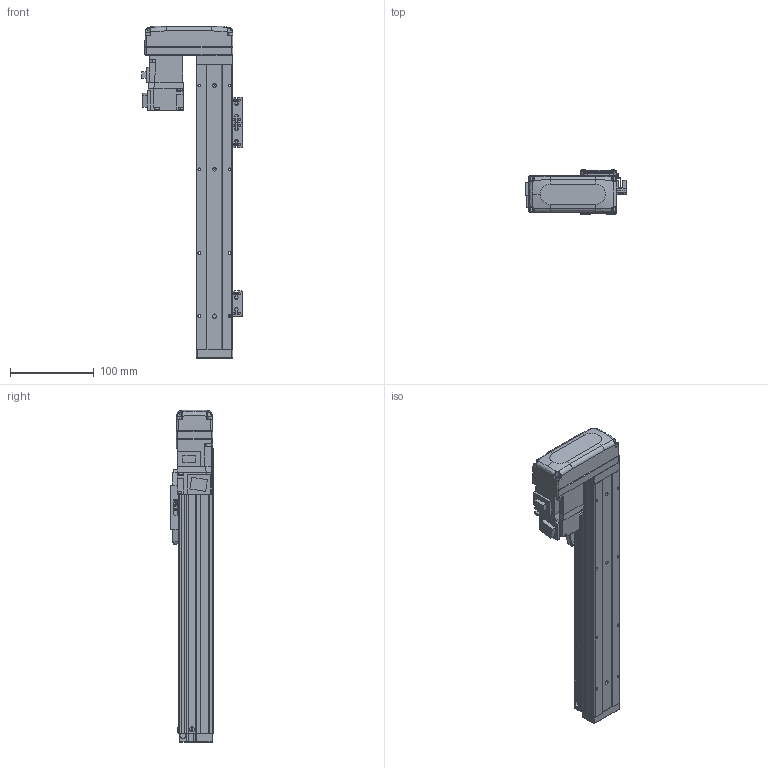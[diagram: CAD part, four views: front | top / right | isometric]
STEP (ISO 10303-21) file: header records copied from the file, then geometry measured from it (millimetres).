
FILE_DESCRIPTION (( 'STEP AP203' ), '1' );
FILE_NAME ('BTH40-200-BR-M05-C4.step', '2021-12-16T00:20:59', ( '微软用户' ), ( '微软中国' ), 'SwSTEP 2.0', 'SolidWorks 2020', '' );
FILE_SCHEMA (( 'CONFIG_CONTROL_DESIGN' ));
Length unit declared in the file: millimetre
Products named in the file (19): GBT70.1-2000 M3×16; GBT 70.1-M2.5×6; BTH40-200-BR-M05-C4; BTH50-028; BTH40-004; BTH50-023; BTH40-013; BTH40-001-50_BTH40-001-200; BTH50-024; HG-KR13; BTH40-003; GBT 70.1-M3℅6; GBT 70.3-M3℅6; BTH40-006; GBT96.1-2002 3×0.8; BTH40-027-1; BTH-M3X5X6; BTH40-022; BTH50-026
Assembly tree (47 placements, depth 2):
  BTH40-200-BR-M05-C4
    BTH40-001-50_BTH40-001-200
    BTH40-003
    BTH40-006
    BTH-M3X5X6  x8
    GBT70.1-2000 M3×16  x4
    BTH50-028  x2
    BTH50-023  x3
    BTH50-024  x3
    GBT 70.1-M3℅6  x6
    GBT96.1-2002 3×0.8  x6
    BTH40-022
    GBT 70.1-M2.5×6  x2
    BTH40-004
    BTH40-013
    HG-KR13
    GBT 70.3-M3℅6  x4
    BTH40-027-1
    BTH50-026
Bounding box: 120 x 52 x 396 mm (x, y, z)
Volume: 835990 mm3; surface area: 166402.3 mm2
Topology: 49 solids, 49 shells, 1971 faces, 4623 edges, 2842 vertices
Faces by surface type: plane 1052, cylinder 483, cone 270, torus 128, bspline 34, sphere 4
Entity records: 39247 total; most frequent: CARTESIAN_POINT 7522, DIRECTION 6140, ORIENTED_EDGE 5892, EDGE_CURVE 2946, AXIS2_PLACEMENT_3D 2095, VECTOR 1950, LINE 1950, VERTEX_POINT 1829
